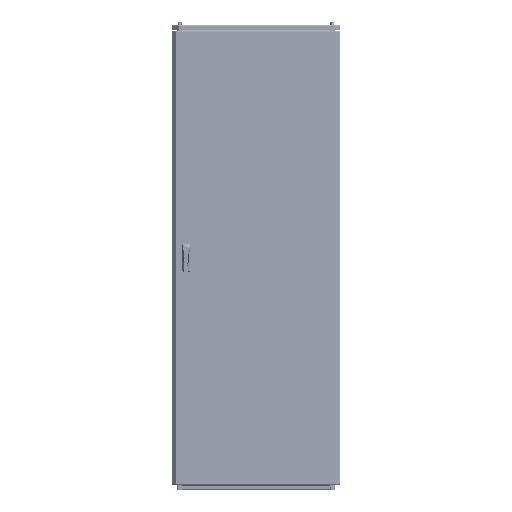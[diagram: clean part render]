
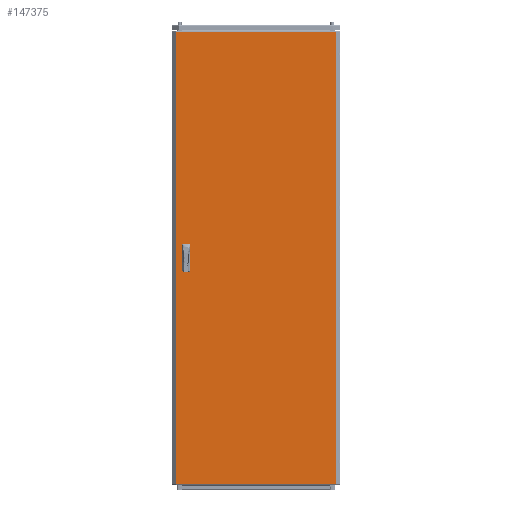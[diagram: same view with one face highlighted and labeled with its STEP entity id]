
A CAD part, top view. The second image highlights one B-rep face of the part: STEP entity #147375.
In plain terms, the highlighted planar face has unit normal (0, 0, 1).
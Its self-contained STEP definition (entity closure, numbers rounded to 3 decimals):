
#2542 = VECTOR ( 'NONE', #171937, 1000. ) ;
#4361 = ORIENTED_EDGE ( 'NONE', *, *, #201483, .T. ) ;
#6229 = VECTOR ( 'NONE', #108296, 1000. ) ;
#6763 = EDGE_LOOP ( 'NONE', ( #153929, #48334, #51370, #4361 ) ) ;
#8226 = DIRECTION ( 'NONE',  ( 0., 1., 0. ) ) ;
#11249 = DIRECTION ( 'NONE',  ( -1., 0., 0. ) ) ;
#13766 = VERTEX_POINT ( 'NONE', #55672 ) ;
#13967 = FACE_OUTER_BOUND ( 'NONE', #6763, .T. ) ;
#14272 = ORIENTED_EDGE ( 'NONE', *, *, #195192, .F. ) ;
#14606 = CARTESIAN_POINT ( 'NONE',  ( -317.5, 12.5, 0. ) ) ;
#15351 = ORIENTED_EDGE ( 'NONE', *, *, #236361, .F. ) ;
#17447 = LINE ( 'NONE', #205724, #185604 ) ;
#19751 = CARTESIAN_POINT ( 'NONE',  ( 377.875, -1069.5, 0. ) ) ;
#21815 = EDGE_CURVE ( 'NONE', #45878, #50599, #225691, .T. ) ;
#34584 = EDGE_LOOP ( 'NONE', ( #47296, #15351, #184502, #63453 ) ) ;
#34790 = LINE ( 'NONE', #56098, #158105 ) ;
#36471 = CARTESIAN_POINT ( 'NONE',  ( -377.875, -1069.5, 0. ) ) ;
#39290 = CARTESIAN_POINT ( 'NONE',  ( -377.875, -1069.5, 0. ) ) ;
#40364 = CARTESIAN_POINT ( 'NONE',  ( 377.875, 1069.5, 0. ) ) ;
#42874 = VECTOR ( 'NONE', #8226, 1000. ) ;
#44417 = ORIENTED_EDGE ( 'NONE', *, *, #238219, .F. ) ;
#45221 = VERTEX_POINT ( 'NONE', #77744 ) ;
#45532 = ORIENTED_EDGE ( 'NONE', *, *, #199940, .F. ) ;
#45857 = LINE ( 'NONE', #238988, #42874 ) ;
#45878 = VERTEX_POINT ( 'NONE', #49466 ) ;
#47296 = ORIENTED_EDGE ( 'NONE', *, *, #211426, .F. ) ;
#47348 = VERTEX_POINT ( 'NONE', #59435 ) ;
#48334 = ORIENTED_EDGE ( 'NONE', *, *, #177257, .T. ) ;
#48771 = VERTEX_POINT ( 'NONE', #124519 ) ;
#49135 = FACE_BOUND ( 'NONE', #34584, .T. ) ;
#49466 = CARTESIAN_POINT ( 'NONE',  ( -317.5, -12.5, 0. ) ) ;
#50599 = VERTEX_POINT ( 'NONE', #101771 ) ;
#51370 = ORIENTED_EDGE ( 'NONE', *, *, #100664, .T. ) ;
#53575 = DIRECTION ( 'NONE',  ( 0., -1., 0. ) ) ;
#53830 = CARTESIAN_POINT ( 'NONE',  ( -342.5, -12.5, 0. ) ) ;
#54870 = DIRECTION ( 'NONE',  ( 1., 0., 0. ) ) ;
#55672 = CARTESIAN_POINT ( 'NONE',  ( 377.875, -1069.5, 0. ) ) ;
#56098 = CARTESIAN_POINT ( 'NONE',  ( -342.5, 12.5, 0. ) ) ;
#59435 = CARTESIAN_POINT ( 'NONE',  ( -342.5, 62.5, 0. ) ) ;
#63453 = ORIENTED_EDGE ( 'NONE', *, *, #68693, .F. ) ;
#66927 = CARTESIAN_POINT ( 'NONE',  ( -377.875, -1069.5, 0. ) ) ;
#68693 = EDGE_CURVE ( 'NONE', #47348, #48771, #131359, .T. ) ;
#75713 = LINE ( 'NONE', #39290, #107727 ) ;
#77744 = CARTESIAN_POINT ( 'NONE',  ( -317.5, 62.5, 0. ) ) ;
#88051 = PLANE ( 'NONE',  #158474 ) ;
#91568 = DIRECTION ( 'NONE',  ( -1., 0., 0. ) ) ;
#93155 = VECTOR ( 'NONE', #147620, 1000. ) ;
#93595 = VERTEX_POINT ( 'NONE', #100422 ) ;
#93599 = LINE ( 'NONE', #14606, #93155 ) ;
#94085 = LINE ( 'NONE', #134200, #205354 ) ;
#96273 = LINE ( 'NONE', #19751, #143207 ) ;
#100422 = CARTESIAN_POINT ( 'NONE',  ( -317.5, -62.5, 0. ) ) ;
#100664 = EDGE_CURVE ( 'NONE', #172866, #158795, #75713, .T. ) ;
#101101 = DIRECTION ( 'NONE',  ( 1., 0., 0. ) ) ;
#101771 = CARTESIAN_POINT ( 'NONE',  ( -342.5, -12.5, 0. ) ) ;
#104733 = CARTESIAN_POINT ( 'NONE',  ( -342.5, -62.5, 0. ) ) ;
#107032 = VECTOR ( 'NONE', #11249, 1000. ) ;
#107727 = VECTOR ( 'NONE', #228722, 1000. ) ;
#108296 = DIRECTION ( 'NONE',  ( 1., 0., 0. ) ) ;
#110256 = CARTESIAN_POINT ( 'NONE',  ( -377.875, 1069.5, 0. ) ) ;
#110503 = ORIENTED_EDGE ( 'NONE', *, *, #21815, .F. ) ;
#124519 = CARTESIAN_POINT ( 'NONE',  ( -342.5, 12.5, 0. ) ) ;
#125685 = DIRECTION ( 'NONE',  ( 0., 0., -1. ) ) ;
#126336 = VERTEX_POINT ( 'NONE', #104733 ) ;
#129398 = FACE_BOUND ( 'NONE', #198292, .T. ) ;
#131359 = LINE ( 'NONE', #229099, #166257 ) ;
#133901 = DIRECTION ( 'NONE',  ( 0., 1., 0. ) ) ;
#134200 = CARTESIAN_POINT ( 'NONE',  ( -342.5, -62.5, 0. ) ) ;
#139995 = LINE ( 'NONE', #231629, #182162 ) ;
#143207 = VECTOR ( 'NONE', #133901, 1000. ) ;
#146933 = EDGE_CURVE ( 'NONE', #48771, #207134, #34790, .T. ) ;
#147375 = ADVANCED_FACE ( 'NONE', ( #49135, #129398, #13967 ), #88051, .F. ) ;
#147620 = DIRECTION ( 'NONE',  ( 0., 1., 0. ) ) ;
#151539 = EDGE_CURVE ( 'NONE', #13766, #192061, #96273, .T. ) ;
#153929 = ORIENTED_EDGE ( 'NONE', *, *, #151539, .T. ) ;
#156078 = CARTESIAN_POINT ( 'NONE',  ( -317.5, 12.5, 0. ) ) ;
#158105 = VECTOR ( 'NONE', #54870, 1000. ) ;
#158474 = AXIS2_PLACEMENT_3D ( 'NONE', #222249, #125685, #240990 ) ;
#158795 = VERTEX_POINT ( 'NONE', #36471 ) ;
#166257 = VECTOR ( 'NONE', #53575, 1000. ) ;
#170651 = DIRECTION ( 'NONE',  ( 0., -1., 0. ) ) ;
#171937 = DIRECTION ( 'NONE',  ( -1., 0., 0. ) ) ;
#172866 = VERTEX_POINT ( 'NONE', #110256 ) ;
#177257 = EDGE_CURVE ( 'NONE', #192061, #172866, #212045, .T. ) ;
#182162 = VECTOR ( 'NONE', #101101, 1000. ) ;
#184502 = ORIENTED_EDGE ( 'NONE', *, *, #146933, .F. ) ;
#185604 = VECTOR ( 'NONE', #91568, 1000. ) ;
#192061 = VERTEX_POINT ( 'NONE', #40364 ) ;
#194439 = CARTESIAN_POINT ( 'NONE',  ( -377.875, 1069.5, 0. ) ) ;
#195192 = EDGE_CURVE ( 'NONE', #50599, #126336, #94085, .T. ) ;
#198292 = EDGE_LOOP ( 'NONE', ( #110503, #44417, #45532, #14272 ) ) ;
#199940 = EDGE_CURVE ( 'NONE', #126336, #93595, #139995, .T. ) ;
#199945 = LINE ( 'NONE', #66927, #6229 ) ;
#201483 = EDGE_CURVE ( 'NONE', #158795, #13766, #199945, .T. ) ;
#205354 = VECTOR ( 'NONE', #170651, 1000. ) ;
#205724 = CARTESIAN_POINT ( 'NONE',  ( -342.5, 62.5, 0. ) ) ;
#207134 = VERTEX_POINT ( 'NONE', #156078 ) ;
#211426 = EDGE_CURVE ( 'NONE', #45221, #47348, #17447, .T. ) ;
#212045 = LINE ( 'NONE', #194439, #2542 ) ;
#222249 = CARTESIAN_POINT ( 'NONE',  ( 0., 0., 0. ) ) ;
#225691 = LINE ( 'NONE', #53830, #107032 ) ;
#228722 = DIRECTION ( 'NONE',  ( 0., -1., 0. ) ) ;
#229099 = CARTESIAN_POINT ( 'NONE',  ( -342.5, 12.5, 0. ) ) ;
#231629 = CARTESIAN_POINT ( 'NONE',  ( -342.5, -62.5, 0. ) ) ;
#236361 = EDGE_CURVE ( 'NONE', #207134, #45221, #93599, .T. ) ;
#238219 = EDGE_CURVE ( 'NONE', #93595, #45878, #45857, .T. ) ;
#238988 = CARTESIAN_POINT ( 'NONE',  ( -317.5, -62.5, 0. ) ) ;
#240990 = DIRECTION ( 'NONE',  ( -1., 0., 0. ) ) ;
